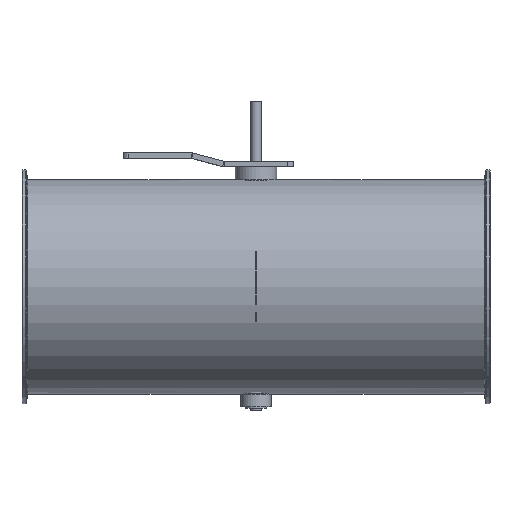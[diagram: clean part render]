
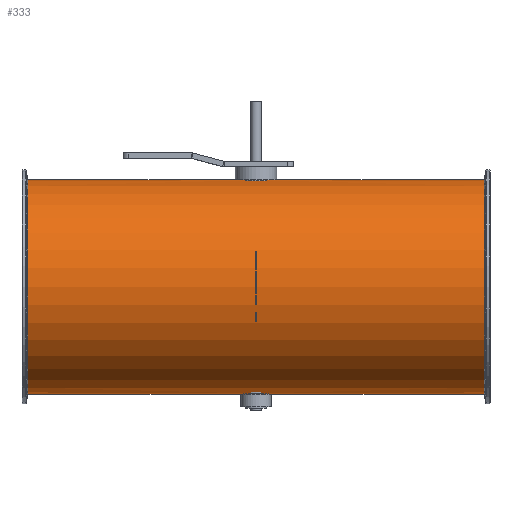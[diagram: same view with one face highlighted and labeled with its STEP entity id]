
A CAD part, top view. The second image highlights one B-rep face of the part: STEP entity #333.
In plain terms, the highlighted cylindrical face has radius 100.8 mm (diameter 201.6 mm), a full revolution.
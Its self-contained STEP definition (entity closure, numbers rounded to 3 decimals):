
#103=B_SPLINE_CURVE_WITH_KNOTS('',3,(#1797,#1798,#1799,#1800,#1801,#1802,
#1803,#1804,#1805,#1806,#1807,#1808,#1809,#1810,#1811,#1812,#1813,#1814),
 .UNSPECIFIED.,.T.,.F.,(2,2,2,2,2,2,2,2,2,2,2),(-0.125,0.,0.125,0.25,0.375,
0.5,0.625,0.75,0.875,1.,1.125),.UNSPECIFIED.);
#104=B_SPLINE_CURVE_WITH_KNOTS('',3,(#1816,#1817,#1818,#1819,#1820,#1821,
#1822,#1823,#1824,#1825,#1826,#1827,#1828,#1829,#1830,#1831,#1832,#1833),
 .UNSPECIFIED.,.T.,.F.,(2,2,2,2,2,2,2,2,2,2,2),(-0.125,0.,0.125,0.25,0.375,
0.5,0.625,0.75,0.875,1.,1.125),.UNSPECIFIED.);
#271=CYLINDRICAL_SURFACE('',#1217,100.8);
#333=ADVANCED_FACE('',(#441,#442,#443,#444),#271,.T.);
#441=FACE_BOUND('',#569,.T.);
#442=FACE_BOUND('',#570,.T.);
#443=FACE_BOUND('',#571,.T.);
#444=FACE_BOUND('',#572,.T.);
#569=EDGE_LOOP('',(#801));
#570=EDGE_LOOP('',(#802));
#571=EDGE_LOOP('',(#803));
#572=EDGE_LOOP('',(#804));
#801=ORIENTED_EDGE('',*,*,#1029,.T.);
#802=ORIENTED_EDGE('',*,*,#1030,.F.);
#803=ORIENTED_EDGE('',*,*,#1031,.F.);
#804=ORIENTED_EDGE('',*,*,#1032,.T.);
#913=VERTEX_POINT('',#1796);
#914=VERTEX_POINT('',#1815);
#915=VERTEX_POINT('',#1834);
#916=VERTEX_POINT('',#1836);
#1029=EDGE_CURVE('',#913,#913,#1097,.T.);
#1030=EDGE_CURVE('',#914,#914,#103,.T.);
#1031=EDGE_CURVE('',#915,#915,#104,.T.);
#1032=EDGE_CURVE('',#916,#916,#1098,.T.);
#1097=CIRCLE('',#1215,100.8);
#1098=CIRCLE('',#1216,100.8);
#1215=AXIS2_PLACEMENT_3D('',#1795,#1501,#1502);
#1216=AXIS2_PLACEMENT_3D('',#1835,#1503,#1504);
#1217=AXIS2_PLACEMENT_3D('',#1837,#1505,#1506);
#1501=DIRECTION('',(-1.,0.,0.));
#1502=DIRECTION('',(0.,0.,-1.));
#1503=DIRECTION('',(1.,0.,0.));
#1504=DIRECTION('',(0.,0.,1.));
#1505=DIRECTION('',(1.,0.,0.));
#1506=DIRECTION('',(0.,0.,-1.));
#1795=CARTESIAN_POINT('',(214.804,-51.,125.));
#1796=CARTESIAN_POINT('',(214.804,-51.,24.2));
#1797=CARTESIAN_POINT('',(2.644,49.303,115.));
#1798=CARTESIAN_POINT('',(-2.644,49.303,115.));
#1799=CARTESIAN_POINT('',(-5.228,49.422,116.086));
#1800=CARTESIAN_POINT('',(-8.915,49.681,119.774));
#1801=CARTESIAN_POINT('',(-9.999,49.8,122.384));
#1802=CARTESIAN_POINT('',(-10.001,49.8,127.605));
#1803=CARTESIAN_POINT('',(-8.941,49.683,130.2));
#1804=CARTESIAN_POINT('',(-5.208,49.421,133.936));
#1805=CARTESIAN_POINT('',(-2.615,49.303,134.999));
#1806=CARTESIAN_POINT('',(2.607,49.303,135.001));
#1807=CARTESIAN_POINT('',(5.219,49.422,133.92));
#1808=CARTESIAN_POINT('',(8.91,49.681,130.236));
#1809=CARTESIAN_POINT('',(9.997,49.8,127.652));
#1810=CARTESIAN_POINT('',(10.003,49.8,122.367));
#1811=CARTESIAN_POINT('',(8.919,49.682,119.78));
#1812=CARTESIAN_POINT('',(5.234,49.422,116.089));
#1813=CARTESIAN_POINT('',(2.644,49.303,115.));
#1814=CARTESIAN_POINT('',(-2.644,49.303,115.));
#1815=CARTESIAN_POINT('',(0.,49.303,115.));
#1816=CARTESIAN_POINT('',(-2.644,-151.303,115.));
#1817=CARTESIAN_POINT('',(2.644,-151.303,115.));
#1818=CARTESIAN_POINT('',(5.228,-151.422,116.086));
#1819=CARTESIAN_POINT('',(8.915,-151.681,119.774));
#1820=CARTESIAN_POINT('',(9.999,-151.8,122.384));
#1821=CARTESIAN_POINT('',(10.001,-151.8,127.605));
#1822=CARTESIAN_POINT('',(8.941,-151.683,130.2));
#1823=CARTESIAN_POINT('',(5.208,-151.421,133.936));
#1824=CARTESIAN_POINT('',(2.615,-151.303,134.999));
#1825=CARTESIAN_POINT('',(-2.607,-151.303,135.001));
#1826=CARTESIAN_POINT('',(-5.219,-151.422,133.92));
#1827=CARTESIAN_POINT('',(-8.91,-151.681,130.236));
#1828=CARTESIAN_POINT('',(-9.997,-151.8,127.652));
#1829=CARTESIAN_POINT('',(-10.003,-151.8,122.367));
#1830=CARTESIAN_POINT('',(-8.919,-151.682,119.78));
#1831=CARTESIAN_POINT('',(-5.234,-151.422,116.089));
#1832=CARTESIAN_POINT('',(-2.644,-151.303,115.));
#1833=CARTESIAN_POINT('',(2.644,-151.303,115.));
#1834=CARTESIAN_POINT('',(0.,-151.303,115.));
#1835=CARTESIAN_POINT('',(-214.804,-51.,125.));
#1836=CARTESIAN_POINT('',(-214.804,-51.,225.8));
#1837=CARTESIAN_POINT('',(-220.,-51.,125.));
